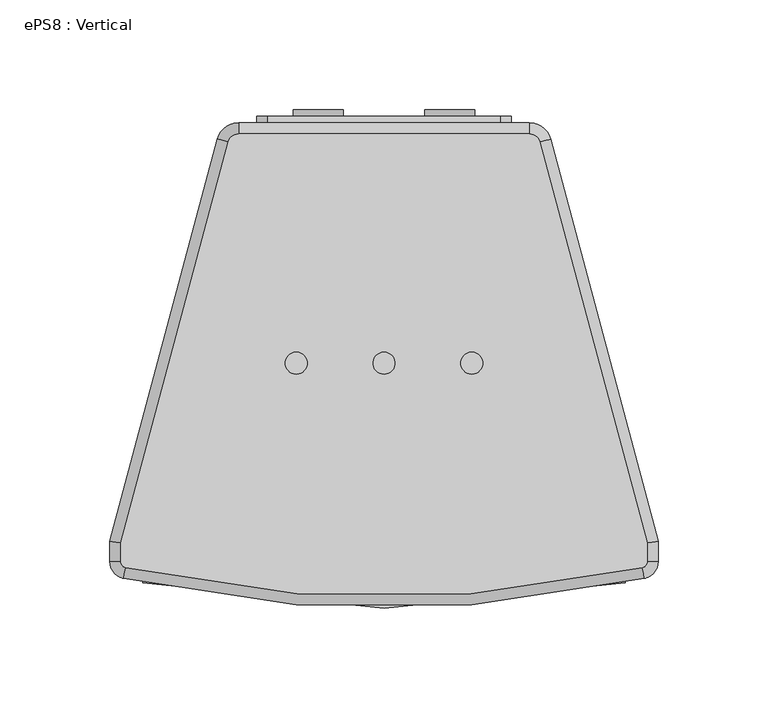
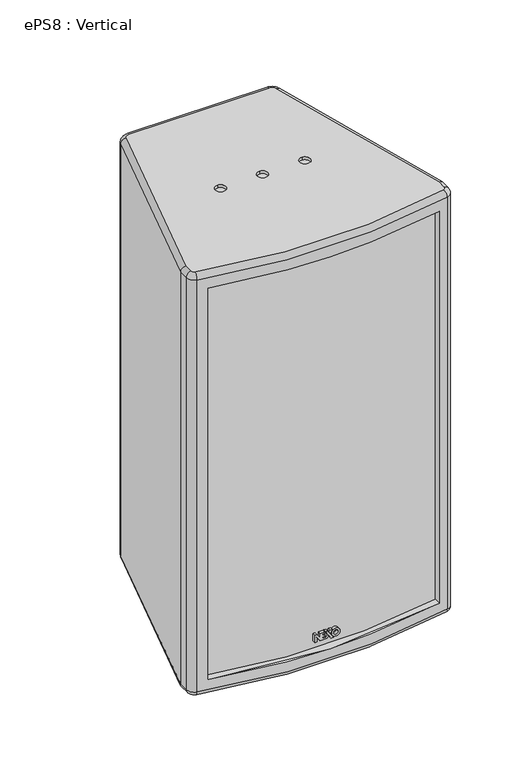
"""IFC4 building model written with IfcOpenShell, lengths in millimetres: proxy geometry, ePS8 : Vertical."""

import ifcopenshell
import ifcopenshell.guid

model = None  # the IFC model being written
_history = None  # IfcOwnerHistory: only IFC2X3 demands one
_inside = {}  # id of a spatial element -> (the spatial element, [elements in it])
_under = {}  # id of a project, library or spatial element -> (it, [spatial elements below it])
_declared = {}  # id of a project -> (the project, [libraries it declares])
_typed = {}  # id of a type object -> (the type object, [elements of that type])
_made_of = {}  # id of a material, layer set ... -> (it, [elements and type objects made of it])


def new_model(schema):
    """Start an empty IFC model of exactly this schema.

    Asked for "IFC4X3", IfcOpenShell would pick the latest addendum, in which some entities
    have other attributes; the version numbers below select the first issue.
    IFC2X3 requires an IfcOwnerHistory on every rooted entity: one is made here for all.
    """
    global model, _history
    if schema == "IFC4X3":
        model = ifcopenshell.file(schema_version=(4, 3, 0, 0))
    else:
        model = ifcopenshell.file(schema=schema)
    _inside.clear()
    _under.clear()
    _declared.clear()
    _typed.clear()
    _made_of.clear()
    _history = None
    if model.schema == "IFC2X3":
        org = make("IfcOrganization", Name="unknown")
        user = make(
            "IfcPersonAndOrganization",
            ThePerson=make("IfcPerson", FamilyName="unknown"),
            TheOrganization=org,
        )
        app = make(
            "IfcApplication",
            ApplicationDeveloper=org,
            Version="unknown",
            ApplicationFullName="unknown",
            ApplicationIdentifier="unknown",
        )
        _history = make(
            "IfcOwnerHistory",
            OwningUser=user,
            OwningApplication=app,
            ChangeAction="ADDED",
            CreationDate=0,
        )
    return model


def make(cls, **values):
    """One entity of the class cls with the attributes given. An attribute that is None is left unset."""
    return model.create_entity(
        cls, **{name: value for name, value in values.items() if value is not None}
    )


def rooted(cls, **values):
    """An entity with a GlobalId (a new one), such as an element, a storey or a relation."""
    return make(cls, GlobalId=ifcopenshell.guid.new(), OwnerHistory=_history, **values)


def si_unit(unit_type, name, prefix=None):
    """IfcSIUnit, for example si_unit("LENGTHUNIT", "METRE", prefix="MILLI")."""
    return make("IfcSIUnit", UnitType=unit_type, Prefix=prefix, Name=name)


def assignment(units):
    """IfcUnitAssignment: the units of a project."""
    return None if units is None else make("IfcUnitAssignment", Units=units)


def point(xyz):
    """IfcCartesianPoint."""
    return None if xyz is None else make("IfcCartesianPoint", Coordinates=xyz)


def direction(xyz):
    """IfcDirection."""
    return None if xyz is None else make("IfcDirection", DirectionRatios=xyz)


def frame(location, z_axis=None, x_axis=None):
    """IfcAxis2Placement3D, a coordinate frame: its origin and axes. An axis left out is left unset."""
    return make(
        "IfcAxis2Placement3D",
        Location=point(location),
        Axis=direction(z_axis),
        RefDirection=direction(x_axis),
    )


def frame_2d(location, x_axis=None):
    """IfcAxis2Placement2D, a coordinate frame in the plane: its origin and x axis."""
    return make(
        "IfcAxis2Placement2D", Location=point(location), RefDirection=direction(x_axis)
    )


def origin():
    """The frame at (0, 0, 0) with its axes left unset."""
    return frame((0.0, 0.0, 0.0))


def place(relative_to, where):
    """IfcLocalPlacement: puts the frame where relative to a parent placement (None: the world)."""
    return make(
        "IfcLocalPlacement", PlacementRelTo=relative_to, RelativePlacement=where
    )


def context(
    kind, dimensions, precision=None, world=None, true_north=None, identifier=None
):
    """IfcGeometricRepresentationContext, for example the 3D "Model" context."""
    return make(
        "IfcGeometricRepresentationContext",
        ContextIdentifier=identifier,
        ContextType=kind,
        CoordinateSpaceDimension=dimensions,
        Precision=precision,
        WorldCoordinateSystem=world,
        TrueNorth=true_north,
    )


def project(units=None, contexts=None):
    """IfcProject with its units and contexts."""
    return rooted(
        "IfcProject",
        Name="project",
        RepresentationContexts=contexts,
        UnitsInContext=assignment(units),
    )


def spatial(cls, under=None, at=None, **own):
    """A site, building, storey or space (cls), placed at a placement, below another one or the project."""
    s = rooted(cls, ObjectPlacement=at, **own)
    if under is not None:
        _under.setdefault(under.id(), (under, []))[1].append(s)
    return s


def polyline(points):
    """IfcPolyline through the points."""
    return make("IfcPolyline", Points=[point(p) for p in points])


def circle_curve(where, radius):
    """IfcCircle in the frame where."""
    return make("IfcCircle", Position=where, Radius=radius)


def ellipse_curve(where, semi_axis1, semi_axis2):
    """IfcEllipse in the frame where."""
    return make(
        "IfcEllipse", Position=where, SemiAxis1=semi_axis1, SemiAxis2=semi_axis2
    )


def trimmed(basis, trim1, trim2, sense, master):
    """IfcTrimmedCurve: the piece of a basis curve between two trims."""
    return make(
        "IfcTrimmedCurve",
        BasisCurve=basis,
        Trim1=trim1,
        Trim2=trim2,
        SenseAgreement=sense,
        MasterRepresentation=master,
    )


def segment(curve, same_sense, transition):
    """IfcCompositeCurveSegment."""
    return make(
        "IfcCompositeCurveSegment",
        Transition=transition,
        SameSense=same_sense,
        ParentCurve=curve,
    )


def composite_curve(segments, self_intersect=None):
    """IfcCompositeCurve: segments joined end to end."""
    return make("IfcCompositeCurve", Segments=segments, SelfIntersect=self_intersect)


def outline(outer, holes=None, kind="AREA"):
    """IfcArbitraryClosedProfileDef: a profile drawn as a closed curve; with holes, ...WithVoids."""
    if holes is None:
        return make("IfcArbitraryClosedProfileDef", ProfileType=kind, OuterCurve=outer)
    return make(
        "IfcArbitraryProfileDefWithVoids",
        ProfileType=kind,
        OuterCurve=outer,
        InnerCurves=holes,
    )


def extrude(swept, where, along, depth):
    """IfcExtrudedAreaSolid: the profile swept, set in the frame where, extruded along a direction by depth."""
    return make(
        "IfcExtrudedAreaSolid",
        SweptArea=swept,
        Position=where,
        ExtrudedDirection=direction(along),
        Depth=depth,
    )


def shape(context_of_items, identifier, shape_type, items):
    """IfcShapeRepresentation: the items that make up one representation, for example the "Body"."""
    return make(
        "IfcShapeRepresentation",
        ContextOfItems=context_of_items,
        RepresentationIdentifier=identifier,
        RepresentationType=shape_type,
        Items=items,
    )


def source(mapping_origin, context_of_items, identifier, shape_type, items):
    """IfcRepresentationMap: a shape defined once, which mapped items show again and again."""
    return make(
        "IfcRepresentationMap",
        MappingOrigin=mapping_origin,
        MappedRepresentation=shape(context_of_items, identifier, shape_type, items),
    )


def transform(
    local_origin,
    x_axis=None,
    y_axis=None,
    z_axis=None,
    scale=None,
    scale2=None,
    scale3=None,
    uniform=True,
):
    """IfcCartesianTransformationOperator3D, or its non-uniform kind. x_axis, y_axis, z_axis: its Axis1, 2, 3."""
    if uniform:
        return make(
            "IfcCartesianTransformationOperator3D",
            Axis1=direction(x_axis),
            Axis2=direction(y_axis),
            LocalOrigin=point(local_origin),
            Scale=scale,
            Axis3=direction(z_axis),
        )
    return make(
        "IfcCartesianTransformationOperator3DnonUniform",
        Axis1=direction(x_axis),
        Axis2=direction(y_axis),
        LocalOrigin=point(local_origin),
        Scale=scale,
        Axis3=direction(z_axis),
        Scale2=scale2,
        Scale3=scale3,
    )


def mapped(mapping_source, mapping_target):
    """IfcMappedItem: shows the shape of a source again, moved by a transform."""
    return make(
        "IfcMappedItem", MappingSource=mapping_source, MappingTarget=mapping_target
    )


def made_of(thing, what):
    """Note that an element or type object is made of a material, layer set ...; save() writes the relation."""
    if what is not None:
        _made_of.setdefault(what.id(), (what, []))[1].append(thing)
    return thing


def element(
    cls,
    number,
    at=None,
    inside=None,
    cuts=None,
    type_object=None,
    material=None,
    context=None,
    identifier="Body",
    shape_type=None,
    held_by="IfcProductDefinitionShape",
    body=None,
    shapes=None,
    **own,
):
    """One element of the class cls, such as IfcWall. Its Tag is "e" and its number.

    at: its placement. inside: the storey or other place that contains it. cuts: it is an
    opening in that element (IfcRelVoidsElement). A single representation is given by context,
    identifier, shape_type and body (its items); several are given by shapes. held_by: the class
    of the entity that holds the representations. save() writes the other relations.
    """
    e = rooted(cls, Tag="e%d" % number, ObjectPlacement=at, **own)
    if body is not None:
        shapes = [shape(context, identifier, shape_type, body)]
    if shapes is not None:
        e.Representation = make(held_by, Representations=shapes)
    if inside is not None:
        _inside.setdefault(inside.id(), (inside, []))[1].append(e)
    if cuts is not None:
        rooted(
            "IfcRelVoidsElement", RelatingBuildingElement=cuts, RelatedOpeningElement=e
        )
    if type_object is not None:
        _typed.setdefault(type_object.id(), (type_object, []))[1].append(e)
    return made_of(e, material)


def aggregate(whole, parts):
    """IfcRelAggregates: a whole, such as a stair, and the parts it consists of."""
    return rooted("IfcRelAggregates", RelatingObject=whole, RelatedObjects=parts)


def save(model, path):
    """Write the relations noted so far, then the file.

    IfcRelAggregates (storeys below a building ...), IfcRelContainedInSpatialStructure (elements
    in a storey), IfcRelDefinesByType, IfcRelAssociatesMaterial and IfcRelDeclares: one each for
    every whole, place, type object, material and project.
    """
    for whole, parts in _under.values():
        aggregate(whole, parts)
    for where, things in _inside.values():
        rooted(
            "IfcRelContainedInSpatialStructure",
            RelatedElements=things,
            RelatingStructure=where,
        )
    for kind, things in _typed.values():
        rooted("IfcRelDefinesByType", RelatedObjects=things, RelatingType=kind)
    for what, things in _made_of.values():
        rooted("IfcRelAssociatesMaterial", RelatedObjects=things, RelatingMaterial=what)
    for by, libraries in _declared.values():
        rooted("IfcRelDeclares", RelatingContext=by, RelatedDefinitions=libraries)
    model.write(path)


def plane_surface(at):
    """IfcPlane: the flat surface through the origin of the frame at, square to its z axis."""
    return make("IfcPlane", Position=at)


def cylinder_surface(at, radius):
    """IfcCylindricalSurface: all points at the distance radius from the z axis of the frame at."""
    return make("IfcCylindricalSurface", Position=at, Radius=radius)


def revolved_surface(curve, axis_point, axis_direction):
    """IfcSurfaceOfRevolution: the curve turned about the line through axis_point along axis_direction."""
    return make(
        "IfcSurfaceOfRevolution",
        SweptCurve=make("IfcArbitraryOpenProfileDef", ProfileType="CURVE", Curve=curve),
        AxisPosition=make("IfcAxis1Placement", Location=point(axis_point), Axis=direction(axis_direction)),
    )


def advanced_brep(points, edges, surfaces, faces):
    """IfcAdvancedBrep: a solid bounded by faces that lie on surfaces and meet in shared edges.

    An edge is (start, end): straight between two places in points (the first is 0);
    or (start, end, curve); or (start, end, curve, False) where it runs against its curve.
    A face is (place in surfaces, loops), or (place, loops, False) where it looks against
    its surface's normal. A loop lists edges by number (the first is 1), with a minus sign
    where the edge is run from its end to its start. The first loop is the outer one.
    """
    corners = [point(p) for p in points]
    vertices = [make("IfcVertexPoint", VertexGeometry=c) for c in corners]
    made = []
    for start, end, *more in edges:
        made.append(
            make(
                "IfcEdgeCurve",
                EdgeStart=vertices[start],
                EdgeEnd=vertices[end],
                EdgeGeometry=more[0] if more else make("IfcPolyline", Points=[corners[start], corners[end]]),
                SameSense=more[1] if len(more) > 1 else True,
            )
        )
    hull = []
    for where, loops, *sense in faces:
        bounds = []
        for j, loop in enumerate(loops):
            ring = [make("IfcOrientedEdge", EdgeElement=made[abs(k) - 1], Orientation=k > 0) for k in loop]
            bounds.append(
                make(
                    "IfcFaceOuterBound" if j == 0 else "IfcFaceBound",
                    Bound=make("IfcEdgeLoop", EdgeList=ring),
                    Orientation=True,
                )
            )
        hull.append(make("IfcAdvancedFace", Bounds=bounds, FaceSurface=surfaces[where], SameSense=sense[0] if sense else True))
    return make("IfcAdvancedBrep", Outer=make("IfcClosedShell", CfsFaces=hull))


def eps8_vertical_fe91d972(model_context):
    return source(origin(), model_context, "Body", "SolidModel", [
        extrude(outline(polyline([(-182.0590531, -11.9363528), (-189.3388202, -11.9363528), (-189.3388202, -10.0439855), (-185.1734899, -10.0439855), (-189.3388202, -7.2688886), (-189.3388202, -0.4179789), (-187.463849, 0.9005934), (-185.8643156, -0.1627837), (-187.7361557, -1.5323263), (-187.7361557, -4.5659556), (-186.4818684, -4.5659556), (-186.4818684, -2.2828427), (-184.8791381, -2.2828427), (-184.8791381, -4.5659556), (-183.6626349, -4.5659556), (-183.6626349, -2.1588809), (-182.8626349, -2.1588809), (-182.0599046, -2.6925396), (-182.0599046, -6.9609157), (-186.5099607, -6.9706073), (-182.0590531, -9.9098734), (-182.0590531, -11.9363528)])), frame((0.0, -106.5, 0.0), z_axis=(0.0, 1.0, 0.0), x_axis=(0.0, 0.0, 1.0)), (0.0, 0.0, 1.0), 3.0),
        extrude(outline(polyline([(-182.0590531, -2.0512245), (-190.3, 3.4273947), (-190.3, 5.6205974), (-182.0590531, 0.1419782), (-182.0590531, -2.0512245)])), frame((0.0, -106.5, 0.0), z_axis=(0.0, 1.0, 0.0), x_axis=(0.0, 0.0, 1.0)), (0.0, 0.0, 1.0), 3.0),
        extrude(outline(polyline([(-182.0590531, 4.6894095), (-182.0590531, 2.362619), (-183.3270101, 1.6148247), (-184.957904, 2.6990504), (-182.0590531, 4.6894095)])), frame((0.0, -106.5, 0.0), z_axis=(0.0, 1.0, 0.0), x_axis=(0.0, 0.0, 1.0)), (0.0, 0.0, 1.0), 3.0),
        extrude(outline(composite_curve([segment(trimmed(circle_curve(frame_2d((-185.7298911, 8.0750207)), 3.9406238), [point((-185.7298911, 4.1343969))], [point((-185.7298911, 12.0156446))], False, "CARTESIAN"), True, "CONTINUOUS"), segment(trimmed(circle_curve(frame_2d((-185.7298911, 8.0750207)), 3.9406238), [point((-185.7298911, 12.0156446))], [point((-185.7298911, 4.1343969))], False, "CARTESIAN"), True, "CONTINUOUS")], self_intersect=False), holes=[composite_curve([segment(trimmed(circle_curve(frame_2d((-185.7298911, 8.0750207)), 2.0681078), [point((-185.7298911, 6.0069129))], [point((-185.7298911, 10.1431285))], True, "CARTESIAN"), True, "CONTINUOUS"), segment(trimmed(circle_curve(frame_2d((-185.7298911, 8.0750207)), 2.0681078), [point((-185.7298911, 10.1431285))], [point((-185.7298911, 6.0069129))], True, "CARTESIAN"), True, "CONTINUOUS")], self_intersect=False)]), frame((0.0, -106.5, 0.0), z_axis=(0.0, 1.0, 0.0), x_axis=(0.0, 0.0, 1.0)), (0.0, 0.0, 1.0), 3.0),
        extrude(outline(composite_curve([segment(trimmed(circle_curve(frame_2d((-174.0, 30.0)), 11.4515227), [point((-174.0, 41.4515227))], [point((-174.0, 18.5484773))], False, "CARTESIAN"), True, "CONTINUOUS"), segment(trimmed(circle_curve(frame_2d((-174.0, 30.0)), 11.4515227), [point((-174.0, 18.5484773))], [point((-174.0, 41.4515227))], False, "CARTESIAN"), True, "CONTINUOUS")], self_intersect=False), holes=[composite_curve([segment(trimmed(circle_curve(frame_2d((-174.0, 30.0)), 5.0), [point((-174.0, 35.0))], [point((-174.0, 25.0))], True, "CARTESIAN"), True, "CONTINUOUS"), segment(trimmed(circle_curve(frame_2d((-174.0, 30.0)), 5.0), [point((-174.0, 25.0))], [point((-174.0, 35.0))], True, "CARTESIAN"), True, "CONTINUOUS")], self_intersect=False)]), frame((0.0, 112.5, 0.0), z_axis=(0.0, 1.0, 0.0), x_axis=(0.0, 0.0, 1.0)), (0.0, 0.0, 1.0), 3.0),
        extrude(outline(composite_curve([segment(trimmed(circle_curve(frame_2d((-174.0, -30.0)), 11.4515227), [point((-174.0, -18.5484773))], [point((-174.0, -41.4515227))], False, "CARTESIAN"), True, "CONTINUOUS"), segment(trimmed(circle_curve(frame_2d((-174.0, -30.0)), 11.4515227), [point((-174.0, -41.4515227))], [point((-174.0, -18.5484773))], False, "CARTESIAN"), True, "CONTINUOUS")], self_intersect=False), holes=[composite_curve([segment(trimmed(circle_curve(frame_2d((-174.0, -30.0)), 5.0), [point((-174.0, -25.0))], [point((-174.0, -35.0))], True, "CARTESIAN"), True, "CONTINUOUS"), segment(trimmed(circle_curve(frame_2d((-174.0, -30.0)), 5.0), [point((-174.0, -35.0))], [point((-174.0, -25.0))], True, "CARTESIAN"), True, "CONTINUOUS")], self_intersect=False)]), frame((0.0, 112.5, 0.0), z_axis=(0.0, 1.0, 0.0), x_axis=(0.0, 0.0, 1.0)), (0.0, 0.0, 1.0), 3.0),
        extrude(outline(composite_curve([segment(polyline([(-155.0, 53.0), (-155.0, -53.0)]), True, "CONTINUOUS"), segment(trimmed(circle_curve(frame_2d((-160.0, -53.0)), 5.0), [point((-155.0, -53.0))], [point((-160.0, -58.0))], False, "CARTESIAN"), True, "CONTINUOUS"), segment(polyline([(-160.0, -58.0), (-188.0, -58.0)]), True, "CONTINUOUS"), segment(trimmed(circle_curve(frame_2d((-188.0, -53.0)), 5.0), [point((-188.0, -58.0))], [point((-193.0, -53.0))], False, "CARTESIAN"), True, "CONTINUOUS"), segment(polyline([(-193.0, -53.0), (-193.0, 53.0)]), True, "CONTINUOUS"), segment(trimmed(circle_curve(frame_2d((-188.0, 53.0)), 5.0), [point((-193.0, 53.0))], [point((-188.0, 58.0))], False, "CARTESIAN"), True, "CONTINUOUS"), segment(polyline([(-188.0, 58.0), (-160.0, 58.0)]), True, "CONTINUOUS"), segment(trimmed(circle_curve(frame_2d((-160.0, 53.0)), 5.0), [point((-160.0, 58.0))], [point((-155.0, 53.0))], False, "CARTESIAN"), True, "CONTINUOUS")], self_intersect=False)), frame((0.0, 109.5, 0.0), z_axis=(0.0, 1.0, 0.0), x_axis=(0.0, 0.0, 1.0)), (0.0, 0.0, 1.0), 3.0),
        advanced_brep(
        [(-71.0680005, 100.7940952, 211.5), (-120.0, -81.822613, 211.5), (-120.0, -90.3294755, 211.5), (-117.6705435, -93.2535773, 211.5), (117.6705435, -93.2535773, 211.5), (120.0, -90.3294755, 211.5), (120.0, -81.822613, 211.5), (71.0680005, 100.7940952, 211.5), (66.2383714, 104.5, 211.5), (-66.2383714, 104.5, 211.5), (0.0, -5.0, 211.5), (0.0, 5.0, 211.5), (-40.0, -5.0, 211.5), (-40.0, 5.0, 211.5), (40.0, -5.0, 211.5), (40.0, 5.0, 211.5), (-120.0, -81.822613, -211.5), (-71.0680005, 100.7940952, -211.5), (-66.2383714, 104.5, -211.5), (66.2383714, 104.5, -211.5), (71.0680005, 100.7940952, -211.5), (120.0, -81.822613, -211.5), (120.0, -90.3294755, -211.5), (117.6705435, -93.2535773, -211.5), (-117.6705435, -93.2535773, -211.5), (-120.0, -90.3294755, -211.5), (0.0, 5.0, -211.5), (0.0, -5.0, -211.5), (-40.0, 5.0, -211.5), (-40.0, -5.0, -211.5), (40.0, 5.0, -211.5), (40.0, -5.0, -211.5), (-66.2383714, 109.5, 206.5), (66.2383714, 109.5, 206.5), (66.2383714, 109.5, -206.5), (-66.2383714, 109.5, -206.5), (-47.3432823, 109.5, 20.0043019), (-58.6566026, 109.5, 20.0043019), (22.6567177, 109.5, 20.0043019), (11.3433974, 109.5, 20.0043019), (22.6567177, 109.5, 90.0043019), (11.3433974, 109.5, 90.0043019), (118.788116, -98.1270803, 206.5), (-118.788116, -98.1270803, 206.5), (-118.788116, -98.1270803, -206.4999999), (118.788116, -98.1270803, -206.5), (-110.0, -100.0641688, 196.5), (110.0, -100.0641688, 196.5), (110.0, -100.0641688, -196.5), (-110.0, -100.0641688, -196.5), (125.0, -90.3294755, 206.5), (125.0, -90.3294755, -206.5), (125.0, -81.1643505, 206.5), (125.0, -81.1643505, -206.5), (75.8976296, 102.0881905, 206.5), (75.8976296, 102.0881905, -206.5), (-75.8976296, 102.0881905, 206.5), (-75.8976296, 102.0881905, -206.5), (-125.0, -81.1643505, 206.5), (-125.0, -81.1643505, -206.5), (-125.0, -90.3294755, 206.5), (-125.0, -90.3294755, -206.5), (0.0, 5.0, 208.5), (0.0, -5.0, 208.5), (-40.0, 5.0, 208.5), (-40.0, -5.0, 208.5), (40.0, 5.0, 208.5), (40.0, -5.0, 208.5), (-110.0, -93.3234349, 196.5), (110.0, -93.2137672, 196.5), (110.0, -93.2137672, -196.5), (-110.0, -93.3234349, -196.5), (0.0, 5.0, -208.5), (0.0, -5.0, -208.5), (-40.0, 5.0, -208.5), (-40.0, -5.0, -208.5), (40.0, 5.0, -208.5), (40.0, -5.0, -208.5), (-47.3432823, 106.5, 20.0043019), (-58.6566026, 106.5, 20.0043019), (22.6567177, 106.5, 20.0043019), (11.3433974, 106.5, 20.0043019), (22.6567177, 106.5, 90.0043019), (11.3433974, 106.5, 90.0043019)],
        [
            (0, 1),
            (1, 2),
            (2, 3, circle_curve(frame((-117.0, -90.3294755, 211.5), z_axis=(0.0, 0.0, 1.0), x_axis=(-0.22351449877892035, -0.9747006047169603, 0.0)), 3.0)),
            (3, 4, circle_curve(frame((0.0, 419.8833804, 211.5), z_axis=(0.0, 0.0, 1.0), x_axis=(0.22351449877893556, -0.9747006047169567, 0.0)), 526.4559755)),
            (4, 5, circle_curve(frame((117.0, -90.3294755, 211.5), z_axis=(0.0, 0.0, 1.0), x_axis=(1.0, 0.0, 0.0)), 3.0)),
            (5, 6),
            (6, 7),
            (7, 8, circle_curve(frame((66.2383714, 99.5, 211.5), z_axis=(0.0, 0.0, 1.0), x_axis=(0.0, 1.0, 0.0)), 5.0)),
            (8, 9),
            (9, 0, circle_curve(frame((-66.2383714, 99.5, 211.5), z_axis=(0.0, 0.0, 1.0), x_axis=(-0.9659258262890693, 0.25881904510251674, 0.0)), 5.0)),
            (10, 11, circle_curve(frame((0.0, 0.0, 211.5), z_axis=(0.0, 0.0, -1.0), x_axis=(0.0, -1.0, 0.0)), 5.0)),
            (11, 10, circle_curve(frame((0.0, 0.0, 211.5), z_axis=(0.0, 0.0, -1.0), x_axis=(0.0, -1.0, 0.0)), 5.0)),
            (12, 13, circle_curve(frame((-40.0, 0.0, 211.5), z_axis=(0.0, 0.0, -1.0), x_axis=(0.0, -1.0, 0.0)), 5.0)),
            (13, 12, circle_curve(frame((-40.0, 0.0, 211.5), z_axis=(0.0, 0.0, -1.0), x_axis=(0.0, -1.0, 0.0)), 5.0)),
            (14, 15, circle_curve(frame((40.0, 0.0, 211.5), z_axis=(0.0, 0.0, -1.0), x_axis=(0.0, -1.0, 0.0)), 5.0)),
            (15, 14, circle_curve(frame((40.0, 0.0, 211.5), z_axis=(0.0, 0.0, -1.0), x_axis=(0.0, -1.0, 0.0)), 5.0)),
            (16, 17),
            (17, 18, circle_curve(frame((-66.2383714, 99.5, -211.5), z_axis=(0.0, 0.0, -1.0), x_axis=(-0.9659258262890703, 0.2588190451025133, 0.0)), 5.0)),
            (18, 19),
            (19, 20, circle_curve(frame((66.2383714, 99.5, -211.5), z_axis=(0.0, 0.0, -1.0), x_axis=(0.0, 1.0, 0.0)), 5.0)),
            (20, 21),
            (21, 22),
            (22, 23, circle_curve(frame((117.0, -90.3294755, -211.5), z_axis=(0.0, 0.0, -1.0), x_axis=(1.0, 0.0, 0.0)), 3.0)),
            (23, 24, circle_curve(frame((0.0, 419.8833804, -211.5), z_axis=(0.0, 0.0, -1.0), x_axis=(0.22351449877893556, -0.9747006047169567, 0.0)), 526.4559755)),
            (24, 25, circle_curve(frame((-117.0, -90.3294755, -211.5), z_axis=(0.0, 0.0, -1.0), x_axis=(-0.22351449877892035, -0.9747006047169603, 0.0)), 3.0)),
            (25, 16),
            (26, 27, circle_curve(frame((0.0, 0.0, -211.5), z_axis=(0.0, 0.0, 1.0), x_axis=(0.0, -1.0, 0.0)), 5.0)),
            (27, 26, circle_curve(frame((0.0, 0.0, -211.5), z_axis=(0.0, 0.0, 1.0), x_axis=(0.0, -1.0, 0.0)), 5.0)),
            (28, 29, circle_curve(frame((-40.0, 0.0, -211.5), z_axis=(0.0, 0.0, 1.0), x_axis=(0.0, -1.0, 0.0)), 5.0)),
            (29, 28, circle_curve(frame((-40.0, 0.0, -211.5), z_axis=(0.0, 0.0, 1.0), x_axis=(0.0, -1.0, 0.0)), 5.0)),
            (30, 31, circle_curve(frame((40.0, 0.0, -211.5), z_axis=(0.0, 0.0, 1.0), x_axis=(0.0, -1.0, 0.0)), 5.0)),
            (31, 30, circle_curve(frame((40.0, 0.0, -211.5), z_axis=(0.0, 0.0, 1.0), x_axis=(0.0, -1.0, 0.0)), 5.0)),
            (32, 33),
            (33, 34),
            (34, 35),
            (35, 32),
            (36, 37, circle_curve(frame((-52.9999424, 109.5, 20.0043019), z_axis=(0.0, -1.0, 0.0), x_axis=(-1.0, 0.0, 0.0)), 5.6566602)),
            (37, 36, circle_curve(frame((-52.9999424, 109.5, 20.0043019), z_axis=(0.0, -1.0, 0.0), x_axis=(-1.0, 0.0, 0.0)), 5.6566602)),
            (38, 39, circle_curve(frame((17.0000576, 109.5, 20.0043019), z_axis=(0.0, -1.0, 0.0), x_axis=(-1.0, 0.0, 0.0)), 5.6566602)),
            (39, 38, circle_curve(frame((17.0000576, 109.5, 20.0043019), z_axis=(0.0, -1.0, 0.0), x_axis=(-1.0, 0.0, 0.0)), 5.6566602)),
            (40, 41, circle_curve(frame((17.0000576, 109.5, 90.0043019), z_axis=(0.0, -1.0, 0.0), x_axis=(-1.0, 0.0, 0.0)), 5.6566602)),
            (41, 40, circle_curve(frame((17.0000576, 109.5, 90.0043019), z_axis=(0.0, -1.0, 0.0), x_axis=(-1.0, 0.0, 0.0)), 5.6566602)),
            (42, 43, circle_curve(frame((0.0, 419.8833804, 206.5), z_axis=(0.0, 0.0, -1.0), x_axis=(1.0, 0.0, 0.0)), 531.4559755)),
            (43, 44),
            (44, 45, circle_curve(frame((0.0, 419.8833804, -206.5), z_axis=(0.0, 0.0, 1.0), x_axis=(1.0, 0.0, 0.0)), 531.4559755)),
            (45, 42),
            (46, 47, circle_curve(frame((0.0, 419.8833804, 196.5), z_axis=(0.0, 0.0, 1.0), x_axis=(1.0, 0.0, 0.0)), 531.4559755)),
            (47, 48),
            (48, 49, circle_curve(frame((0.0, 419.8833804, -196.5), z_axis=(0.0, 0.0, -1.0), x_axis=(1.0, 0.0, 0.0)), 531.4559755)),
            (49, 46),
            (50, 42, circle_curve(frame((117.0, -90.3294755, 206.5), z_axis=(0.0, 0.0, -1.0), x_axis=(1.0, 0.0, 0.0)), 8.0)),
            (45, 51, circle_curve(frame((117.0, -90.3294755, -206.5), z_axis=(0.0, 0.0, 1.0), x_axis=(1.0, 0.0, 0.0)), 8.0)),
            (51, 50),
            (52, 50),
            (51, 53),
            (53, 52),
            (54, 52),
            (53, 55),
            (55, 54),
            (33, 54, circle_curve(frame((66.2383714, 99.5, 206.5), z_axis=(0.0, 0.0, -1.0), x_axis=(1.0, 0.0, 0.0)), 10.0)),
            (55, 34, circle_curve(frame((66.2383714, 99.5, -206.5), z_axis=(0.0, 0.0, 1.0), x_axis=(1.0, 0.0, 0.0)), 10.0)),
            (56, 32, circle_curve(frame((-66.2383714, 99.5, 206.5), z_axis=(0.0, 0.0, -1.0), x_axis=(1.0, 0.0, 0.0)), 10.0)),
            (35, 57, circle_curve(frame((-66.2383714, 99.5, -206.5), z_axis=(0.0, 0.0, 1.0), x_axis=(1.0, 0.0, 0.0)), 10.0)),
            (57, 56),
            (58, 56),
            (57, 59),
            (59, 58),
            (60, 58),
            (59, 61),
            (61, 60),
            (43, 60, circle_curve(frame((-117.0, -90.3294755, 206.5), z_axis=(0.0, 0.0, -1.0), x_axis=(1.0, 0.0, 0.0)), 8.0)),
            (61, 44, circle_curve(frame((-117.0, -90.3294755, -206.5), z_axis=(0.0, 0.0, 1.0), x_axis=(1.0, 0.0, 0.0)), 8.0)),
            (62, 63, circle_curve(frame((0.0, 0.0, 208.5), z_axis=(0.0, 0.0, 1.0), x_axis=(0.0, -1.0, 0.0)), 5.0)),
            (63, 62, circle_curve(frame((0.0, 0.0, 208.5), z_axis=(0.0, 0.0, 1.0), x_axis=(0.0, -1.0, 0.0)), 5.0)),
            (64, 65, circle_curve(frame((-40.0, 0.0, 208.5), z_axis=(0.0, 0.0, 1.0), x_axis=(0.0, -1.0, 0.0)), 5.0)),
            (65, 64, circle_curve(frame((-40.0, 0.0, 208.5), z_axis=(0.0, 0.0, 1.0), x_axis=(0.0, -1.0, 0.0)), 5.0)),
            (66, 67, circle_curve(frame((40.0, 0.0, 208.5), z_axis=(0.0, 0.0, 1.0), x_axis=(0.0, -1.0, 0.0)), 5.0)),
            (67, 66, circle_curve(frame((40.0, 0.0, 208.5), z_axis=(0.0, 0.0, 1.0), x_axis=(0.0, -1.0, 0.0)), 5.0)),
            (62, 11),
            (10, 63),
            (64, 13),
            (12, 65),
            (66, 15),
            (14, 67),
            (46, 68),
            (68, 69, circle_curve(frame((-0.2540909, 416.4531533, 196.5), z_axis=(0.0, 0.0, 1.0), x_axis=(1.0, 0.0, 0.0)), 521.4559755)),
            (69, 47),
            (48, 70),
            (70, 71, circle_curve(frame((-0.2540909, 416.4531533, -196.5), z_axis=(0.0, 0.0, -1.0), x_axis=(1.0, 0.0, 0.0)), 521.4559755)),
            (71, 49),
            (69, 70),
            (68, 71),
            (0, 56, circle_curve(frame((-71.0680005, 100.7940952, 206.5), z_axis=(-0.25881904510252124, -0.9659258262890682, 0.0), x_axis=(-0.9659258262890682, 0.25881904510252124, 0.0)), 5.0)),
            (58, 1, ellipse_curve(frame((-120.0, -81.822613, 206.5), z_axis=(0.130526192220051, 0.9914448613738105, 0.0), x_axis=(0.9914448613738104, -0.13052619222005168, 0.0)), 5.0431448, 5.0)),
            (9, 32, circle_curve(frame((-66.2383714, 104.5, 206.5), z_axis=(-1.0, 0.0, 0.0), x_axis=(0.0, 1.0, 0.0)), 5.0)),
            (8, 33, circle_curve(frame((66.2383714, 104.5, 206.5), z_axis=(-1.0, 0.0, 0.0), x_axis=(0.0, 1.0, 0.0)), 5.0)),
            (7, 54, circle_curve(frame((71.0680005, 100.7940952, 206.5), z_axis=(-0.2588190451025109, 0.9659258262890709, 0.0), x_axis=(0.9659258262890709, 0.2588190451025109, 0.0)), 5.0)),
            (6, 52, ellipse_curve(frame((120.0, -81.822613, 206.5), z_axis=(-0.1305261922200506, 0.9914448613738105, 0.0), x_axis=(0.9914448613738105, 0.1305261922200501, 0.0)), 5.0431448, 5.0)),
            (60, 2, circle_curve(frame((-120.0, -90.3294755, 206.5), z_axis=(0.0, 1.0, 0.0), x_axis=(-1.0, 0.0, 0.0)), 5.0)),
            (5, 50, circle_curve(frame((120.0, -90.3294755, 206.5), z_axis=(0.0, 1.0, 0.0), x_axis=(1.0, 0.0, 0.0)), 5.0)),
            (4, 42, circle_curve(frame((117.6705435, -93.2535773, 206.5), z_axis=(0.9747006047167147, 0.22351449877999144, 0.0), x_axis=(0.22351449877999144, -0.9747006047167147, 0.0)), 5.0)),
            (3, 43, circle_curve(frame((-117.6705435, -93.2535773, 206.5), z_axis=(0.9747006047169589, -0.22351449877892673, 0.0), x_axis=(-0.22351449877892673, -0.9747006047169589, 0.0)), 5.0)),
            (57, 17, circle_curve(frame((-71.0680005, 100.7940952, -206.5), z_axis=(-0.2588190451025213, -0.9659258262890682, 0.0), x_axis=(-0.9659258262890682, 0.2588190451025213, 0.0)), 5.0)),
            (16, 59, ellipse_curve(frame((-120.0, -81.822613, -206.5), z_axis=(0.13052619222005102, 0.9914448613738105, 0.0), x_axis=(0.9914448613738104, -0.13052619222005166, 0.0)), 5.0431448, 5.0)),
            (35, 18, circle_curve(frame((-66.2383714, 104.5, -206.5), z_axis=(-1.0, 0.0, 0.0), x_axis=(0.0, 1.0, 0.0)), 5.0)),
            (34, 19, circle_curve(frame((66.2383714, 104.5, -206.5), z_axis=(-1.0, 0.0, 0.0), x_axis=(0.0, 1.0, 0.0)), 5.0)),
            (55, 20, circle_curve(frame((71.0680005, 100.7940952, -206.5), z_axis=(-0.25881904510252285, 0.9659258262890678, 0.0), x_axis=(0.9659258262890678, 0.25881904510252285, 0.0)), 5.0)),
            (53, 21, ellipse_curve(frame((120.0, -81.822613, -206.5), z_axis=(-0.13052619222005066, 0.9914448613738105, 0.0), x_axis=(0.9914448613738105, 0.1305261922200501, 0.0)), 5.0431448, 5.0)),
            (25, 61, circle_curve(frame((-120.0, -90.3294755, -206.5), z_axis=(0.0, 1.0, 0.0), x_axis=(-1.0, 0.0, 0.0)), 5.0)),
            (51, 22, circle_curve(frame((120.0, -90.3294755, -206.5), z_axis=(0.0, 1.0, 0.0), x_axis=(1.0, 0.0, 0.0)), 5.0)),
            (45, 23, circle_curve(frame((117.6705435, -93.2535773, -206.5), z_axis=(0.9747006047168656, 0.2235144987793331, 0.0), x_axis=(0.2235144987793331, -0.9747006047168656, 0.0)), 5.0)),
            (44, 24, circle_curve(frame((-117.6705435, -93.2535773, -206.5), z_axis=(0.9747006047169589, -0.22351449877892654, 0.0), x_axis=(-0.22351449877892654, -0.9747006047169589, 0.0)), 5.0)),
            (72, 73, circle_curve(frame((0.0, 0.0, -208.5), z_axis=(0.0, 0.0, -1.0), x_axis=(0.0, -1.0, 0.0)), 5.0)),
            (73, 72, circle_curve(frame((0.0, 0.0, -208.5), z_axis=(0.0, 0.0, -1.0), x_axis=(0.0, -1.0, 0.0)), 5.0)),
            (74, 75, circle_curve(frame((-40.0, 0.0, -208.5), z_axis=(0.0, 0.0, -1.0), x_axis=(0.0, -1.0, 0.0)), 5.0)),
            (75, 74, circle_curve(frame((-40.0, 0.0, -208.5), z_axis=(0.0, 0.0, -1.0), x_axis=(0.0, -1.0, 0.0)), 5.0)),
            (76, 77, circle_curve(frame((40.0, 0.0, -208.5), z_axis=(0.0, 0.0, -1.0), x_axis=(0.0, -1.0, 0.0)), 5.0)),
            (77, 76, circle_curve(frame((40.0, 0.0, -208.5), z_axis=(0.0, 0.0, -1.0), x_axis=(0.0, -1.0, 0.0)), 5.0)),
            (73, 27),
            (26, 72),
            (75, 29),
            (28, 74),
            (77, 31),
            (30, 76),
            (78, 79, circle_curve(frame((-52.9999424, 106.5, 20.0043019), z_axis=(0.0, 1.0, 0.0), x_axis=(-1.0, 0.0, 0.0)), 5.6566602)),
            (79, 78, circle_curve(frame((-52.9999424, 106.5, 20.0043019), z_axis=(0.0, 1.0, 0.0), x_axis=(-1.0, 0.0, 0.0)), 5.6566602)),
            (80, 81, circle_curve(frame((17.0000576, 106.5, 20.0043019), z_axis=(0.0, 1.0, 0.0), x_axis=(-1.0, 0.0, 0.0)), 5.6566602)),
            (81, 80, circle_curve(frame((17.0000576, 106.5, 20.0043019), z_axis=(0.0, 1.0, 0.0), x_axis=(-1.0, 0.0, 0.0)), 5.6566602)),
            (82, 83, circle_curve(frame((17.0000576, 106.5, 90.0043019), z_axis=(0.0, 1.0, 0.0), x_axis=(-1.0, 0.0, 0.0)), 5.6566602)),
            (83, 82, circle_curve(frame((17.0000576, 106.5, 90.0043019), z_axis=(0.0, 1.0, 0.0), x_axis=(-1.0, 0.0, 0.0)), 5.6566602)),
            (79, 37),
            (36, 78),
            (81, 39),
            (38, 80),
            (83, 41),
            (40, 82),
        ],
        [
            plane_surface(frame((125.0, -90.3294755, 211.5), z_axis=(0.0, 0.0, 1.0), x_axis=(0.0, 1.0, 0.0))),
            plane_surface(frame((125.0, -90.3294755, -211.5), z_axis=(0.0, 0.0, -1.0), x_axis=(0.0, -1.0, 0.0))),
            plane_surface(frame((66.2383714, 109.5, 211.5), z_axis=(0.0, 1.0, 0.0), x_axis=(0.0, 0.0, -1.0))),
            cylinder_surface(frame((0.0, 419.8833804, -211.5), z_axis=(0.0, 0.0, 1.0), x_axis=(1.0, 0.0, 0.0)), 531.4559755),
            cylinder_surface(frame((117.0, -90.3294755, -211.5), z_axis=(0.0, 0.0, 1.0), x_axis=(1.0, 0.0, 0.0)), 8.0),
            plane_surface(frame((125.0, -90.3294755, 211.5), z_axis=(1.0, 0.0, 0.0), x_axis=(0.0, 0.0, -1.0))),
            plane_surface(frame((125.0, -81.1643505, 211.5), z_axis=(0.9659258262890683, 0.2588190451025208, 0.0), x_axis=(0.0, 0.0, -1.0))),
            cylinder_surface(frame((66.2383714, 99.5, -211.5), z_axis=(0.0, 0.0, 1.0), x_axis=(1.0, 0.0, 0.0)), 10.0),
            cylinder_surface(frame((-66.2383714, 99.5, -211.5), z_axis=(0.0, 0.0, 1.0), x_axis=(1.0, 0.0, 0.0)), 10.0),
            plane_surface(frame((-75.8976296, 102.0881905, 211.5), z_axis=(-0.9659258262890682, 0.2588190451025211, 0.0), x_axis=(0.0, 0.0, -1.0))),
            plane_surface(frame((-125.0, -81.1643505, 211.5), z_axis=(-1.0, 0.0, 0.0), x_axis=(0.0, 0.0, -1.0))),
            cylinder_surface(frame((-117.0, -90.3294755, -211.5), z_axis=(0.0, 0.0, 1.0), x_axis=(1.0, 0.0, 0.0)), 8.0),
            plane_surface(frame((0.0, -5.0, 208.5), z_axis=(0.0, 0.0, 1.0), x_axis=(-1.0, 0.0, 0.0))),
            revolved_surface(polyline([(0.0, -5.0, 211.5), (0.0, -5.0, 208.5)]), (0.0, 0.0, 208.5), (0.0, 0.0, 1.0)),
            revolved_surface(polyline([(-40.0, -5.0, 211.5), (-40.0, -5.0, 208.5)]), (-40.0, 0.0, 211.5), (0.0, 0.0, 1.0)),
            revolved_surface(polyline([(40.0, -5.0, 211.5), (40.0, -5.0, 208.5)]), (40.0, 0.0, 211.5), (0.0, 0.0, 1.0)),
            plane_surface(frame((110.0, -157.7599178, 196.5), z_axis=(0.0, 0.0, -1.0), x_axis=(0.0, 1.0, 0.0))),
            plane_surface(frame((110.0, -157.7599178, -196.5), z_axis=(0.0, 0.0, 1.0), x_axis=(0.0, -1.0, 0.0))),
            plane_surface(frame((110.0, -100.0641688, 196.5), z_axis=(-1.0, 0.0, 0.0), x_axis=(0.0, 0.0, -1.0))),
            cylinder_surface(frame((-0.2540909, 416.4531533, -196.5), z_axis=(0.0, 0.0, -1.0), x_axis=(1.0, 0.0, 0.0)), 521.4559755),
            plane_surface(frame((-110.0, -93.3234349, 196.5), z_axis=(1.0, 0.0, 0.0), x_axis=(0.0, 0.0, -1.0))),
            cylinder_surface(frame((-120.1703709, -82.4584457, 206.5), z_axis=(0.25881904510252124, 0.9659258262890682, 0.0), x_axis=(-0.9659258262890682, 0.25881904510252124, 0.0)), 5.0),
            revolved_surface(trimmed(ellipse_curve(frame((-71.0680005, 100.7940952, 206.5), z_axis=(-0.25881904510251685, -0.9659258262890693, 0.0), x_axis=(-0.9659258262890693, 0.25881904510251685, 0.0)), 5.0, 5.0), [point((-71.0680005, 100.7940952, 211.5))], [point((-75.8976296, 102.0881905, 206.5))], True, "CARTESIAN"), (-66.2383714, 99.5, 211.5), (0.0, 0.0, -1.0)),
            cylinder_surface(frame((-66.2383714, 104.5, 206.5), z_axis=(1.0, 0.0, 0.0), x_axis=(0.0, 1.0, 0.0)), 5.0),
            revolved_surface(trimmed(ellipse_curve(frame((66.2383714, 104.5, 206.5), z_axis=(-1.0, 0.0, 0.0), x_axis=(0.0, 1.0, 0.0)), 5.0, 5.0), [point((66.2383714, 104.5, 211.5))], [point((66.2383714, 109.5, 206.5))], True, "CARTESIAN"), (66.2383714, 99.5, 211.5), (0.0, 0.0, -1.0)),
            cylinder_surface(frame((71.0680005, 100.7940952, 206.5), z_axis=(0.25881904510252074, -0.9659258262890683, 0.0), x_axis=(0.9659258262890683, 0.25881904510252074, 0.0)), 5.0),
            cylinder_surface(frame((-120.0, -90.3294755, 206.5), z_axis=(0.0, 1.0, 0.0), x_axis=(-1.0, 0.0, 0.0)), 5.0),
            cylinder_surface(frame((120.0, -81.1643505, 206.5), z_axis=(0.0, -1.0, 0.0), x_axis=(1.0, 0.0, 0.0)), 5.0),
            revolved_surface(trimmed(ellipse_curve(frame((120.0, -90.3294755, 206.5), z_axis=(0.0, 1.0, 0.0), x_axis=(1.0, 0.0, 0.0)), 5.0, 5.0), [point((120.0, -90.3294755, 211.5))], [point((125.0, -90.3294755, 206.5))], True, "CARTESIAN"), (117.0, -90.3294755, 211.5), (0.0, 0.0, -1.0)),
            revolved_surface(trimmed(ellipse_curve(frame((117.6705435, -93.2535773, 206.5), z_axis=(0.9747006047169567, 0.2235144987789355, 0.0), x_axis=(0.2235144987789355, -0.9747006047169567, 0.0)), 5.0, 5.0), [point((117.6705435, -93.2535773, 211.5))], [point((118.788116, -98.1270803, 206.5))], True, "CARTESIAN"), (0.0, 419.8833804, 211.5), (0.0, 0.0, -1.0)),
            revolved_surface(trimmed(ellipse_curve(frame((-117.6705435, -93.2535773, 206.5), z_axis=(0.9747006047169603, -0.22351449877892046, 0.0), x_axis=(-0.22351449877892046, -0.9747006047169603, 0.0)), 5.0, 5.0), [point((-117.6705435, -93.2535773, 211.5))], [point((-118.788116, -98.1270803, 206.5))], True, "CARTESIAN"), (-117.0, -90.3294755, 211.5), (0.0, 0.0, -1.0)),
            cylinder_surface(frame((-120.1703709, -82.4584457, -206.5), z_axis=(0.2588190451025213, 0.9659258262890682, 0.0), x_axis=(-0.9659258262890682, 0.2588190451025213, 0.0)), 5.0),
            revolved_surface(trimmed(ellipse_curve(frame((-71.0680005, 100.7940952, -206.5), z_axis=(-0.25881904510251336, -0.9659258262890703, 0.0), x_axis=(-0.9659258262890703, 0.25881904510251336, 0.0)), 5.0, 5.0), [point((-75.8976296, 102.0881905, -206.5))], [point((-71.0680005, 100.7940952, -211.5))], True, "CARTESIAN"), (-66.2383714, 99.5, -211.5), (0.0, 0.0, -1.0)),
            cylinder_surface(frame((-66.2383714, 104.5, -206.5), z_axis=(1.0, 0.0, 0.0), x_axis=(0.0, 1.0, 0.0)), 5.0),
            revolved_surface(trimmed(ellipse_curve(frame((66.2383714, 104.5, -206.5), z_axis=(-1.0, 0.0, 0.0), x_axis=(0.0, 1.0, 0.0)), 5.0, 5.0), [point((66.2383714, 109.5, -206.5))], [point((66.2383714, 104.5, -211.5))], True, "CARTESIAN"), (66.2383714, 99.5, -211.5), (0.0, 0.0, -1.0)),
            cylinder_surface(frame((71.0680005, 100.7940952, -206.5), z_axis=(0.2588190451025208, -0.9659258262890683, 0.0), x_axis=(0.9659258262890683, 0.2588190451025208, 0.0)), 5.0),
            cylinder_surface(frame((-120.0, -90.3294755, -206.5), z_axis=(0.0, 1.0, 0.0), x_axis=(-1.0, 0.0, 0.0)), 5.0),
            cylinder_surface(frame((120.0, -81.1643505, -206.5), z_axis=(0.0, -1.0, 0.0), x_axis=(1.0, 0.0, 0.0)), 5.0),
            revolved_surface(trimmed(ellipse_curve(frame((120.0, -90.3294755, -206.5), z_axis=(0.0, 1.0, 0.0), x_axis=(1.0, 0.0, 0.0)), 5.0, 5.0), [point((125.0, -90.3294755, -206.5))], [point((120.0, -90.3294755, -211.5))], True, "CARTESIAN"), (117.0, -90.3294755, -211.5), (0.0, 0.0, -1.0)),
            revolved_surface(trimmed(ellipse_curve(frame((117.6705435, -93.2535773, -206.5), z_axis=(0.9747006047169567, 0.22351449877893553, 0.0), x_axis=(0.22351449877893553, -0.9747006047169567, 0.0)), 5.0, 5.0), [point((118.788116, -98.1270803, -206.5))], [point((117.6705435, -93.2535773, -211.5))], True, "CARTESIAN"), (0.0, 419.8833804, -211.5), (0.0, 0.0, -1.0)),
            revolved_surface(trimmed(ellipse_curve(frame((-117.6705435, -93.2535773, -206.5), z_axis=(0.9747006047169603, -0.22351449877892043, 0.0), x_axis=(-0.22351449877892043, -0.9747006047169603, 0.0)), 5.0, 5.0), [point((-118.788116, -98.1270803, -206.5))], [point((-117.6705435, -93.2535773, -211.5))], True, "CARTESIAN"), (-117.0, -90.3294755, -211.5), (0.0, 0.0, -1.0)),
            plane_surface(frame((0.0, -5.0, -208.5), z_axis=(0.0, 0.0, -1.0), x_axis=(1.0, 0.0, 0.0))),
            revolved_surface(polyline([(0.0, -5.0, -208.5), (0.0, -5.0, -211.5)]), (0.0, 0.0, -214.5), (0.0, 0.0, 1.0)),
            revolved_surface(polyline([(-40.0, -5.0, -208.5), (-40.0, -5.0, -211.5)]), (-40.0, 0.0, -211.5), (0.0, 0.0, 1.0)),
            revolved_surface(polyline([(40.0, -5.0, -208.5), (40.0, -5.0, -211.5)]), (40.0, 0.0, -211.5), (0.0, 0.0, 1.0)),
            plane_surface(frame((-58.6566026, 106.5, 20.0043019), z_axis=(0.0, 1.0, 0.0), x_axis=(0.0, 0.0, -1.0))),
            revolved_surface(polyline([(-58.6566026, 109.5, 20.0043019), (-58.6566026, 106.5, 20.0043019)]), (-52.9999424, 106.5, 20.0043019), (0.0, 1.0, 0.0)),
            revolved_surface(polyline([(11.3433974, 109.5, 20.0043019), (11.3433974, 106.5, 20.0043019)]), (17.0000576, 109.5, 20.0043019), (0.0, 1.0, 0.0)),
            revolved_surface(polyline([(11.3433974, 109.5, 90.0043019), (11.3433974, 106.5, 90.0043019)]), (17.0000576, 109.5, 90.0043019), (0.0, 1.0, 0.0)),
        ],
        [
            (0, [[1, 2, 3, 4, 5, 6, 7, 8, 9, 10], [11, 12], [13, 14], [15, 16]]),
            (1, [[17, 18, 19, 20, 21, 22, 23, 24, 25, 26], [27, 28], [29, 30], [31, 32]]),
            (2, [[33, 34, 35, 36], [37, 38], [39, 40], [41, 42]]),
            (3, [[43, 44, 45, 46], [47, 48, 49, 50]]),
            (4, [[51, -46, 52, 53]]),
            (5, [[54, -53, 55, 56]]),
            (6, [[57, -56, 58, 59]]),
            (7, [[60, -59, 61, -34]]),
            (8, [[62, -36, 63, 64]]),
            (9, [[65, -64, 66, 67]]),
            (10, [[68, -67, 69, 70]]),
            (11, [[71, -70, 72, -44]]),
            (12, [[73, 74]]),
            (12, [[75, 76]]),
            (12, [[77, 78]]),
            (13, [[-73, 79, -11, 80]]),
            (13, [[-74, -80, -12, -79]]),
            (14, [[-75, 81, -13, 82]]),
            (14, [[-76, -82, -14, -81]]),
            (15, [[-77, 83, -15, 84]]),
            (15, [[-78, -84, -16, -83]]),
            (16, [[85, 86, 87, -47]]),
            (17, [[88, 89, 90, -49]]),
            (18, [[-87, 91, -88, -48]]),
            (19, [[-86, 92, -89, -91]]),
            (20, [[-85, -50, -90, -92]]),
            (21, [[93, -65, 94, -1]]),
            (22, [[-93, -10, 95, -62]]),
            (23, [[-95, -9, 96, -33]]),
            (24, [[-96, -8, 97, -60]]),
            (25, [[-97, -7, 98, -57]]),
            (26, [[-94, -68, 99, -2]]),
            (27, [[-98, -6, 100, -54]]),
            (28, [[-100, -5, 101, -51]]),
            (29, [[-101, -4, 102, -43]]),
            (30, [[-99, -71, -102, -3]]),
            (31, [[103, -17, 104, -66]]),
            (32, [[-103, -63, 105, -18]]),
            (33, [[-105, -35, 106, -19]]),
            (34, [[-106, -61, 107, -20]]),
            (35, [[-107, -58, 108, -21]]),
            (36, [[-104, -26, 109, -69]]),
            (37, [[-108, -55, 110, -22]]),
            (38, [[-110, -52, 111, -23]]),
            (39, [[-111, -45, 112, -24]]),
            (40, [[-109, -25, -112, -72]]),
            (41, [[113, 114]]),
            (41, [[115, 116]]),
            (41, [[117, 118]]),
            (42, [[-114, 119, -27, 120]]),
            (42, [[-113, -120, -28, -119]]),
            (43, [[-116, 121, -29, 122]]),
            (43, [[-115, -122, -30, -121]]),
            (44, [[-118, 123, -31, 124]]),
            (44, [[-117, -124, -32, -123]]),
            (45, [[125, 126]]),
            (45, [[127, 128]]),
            (45, [[129, 130]]),
            (46, [[-126, 131, -37, 132]]),
            (46, [[-125, -132, -38, -131]]),
            (47, [[-128, 133, -39, 134]]),
            (47, [[-127, -134, -40, -133]]),
            (48, [[-130, 135, -41, 136]]),
            (48, [[-129, -136, -42, -135]]),
        ],
    ),
    ])


if __name__ == "__main__":
    model = new_model("IFC4")
    model_context = context("Model", 3, world=origin())
    ifc_project = project(units=[si_unit("LENGTHUNIT", "METRE", prefix="MILLI")], contexts=[model_context])
    site = spatial("IfcSite", under=ifc_project)
    building = spatial("IfcBuilding", under=site)
    placement = place(None, origin())
    eps8_vertical_shape = eps8_vertical_fe91d972(model_context)
    element("IfcBuildingElementProxy", 1, Name="ePS8 : Vertical", ObjectType="ePS8 : Vertical", at=placement, inside=building, context=model_context, shape_type="MappedRepresentation", body=[
        mapped(eps8_vertical_shape, transform((0.0, 0.0, 0.0), x_axis=(1.0, 0.0, 0.0), y_axis=(0.0, 1.0, 0.0), z_axis=(0.0, 0.0, 1.0))),
    ])
    save(model, "model.ifc")
